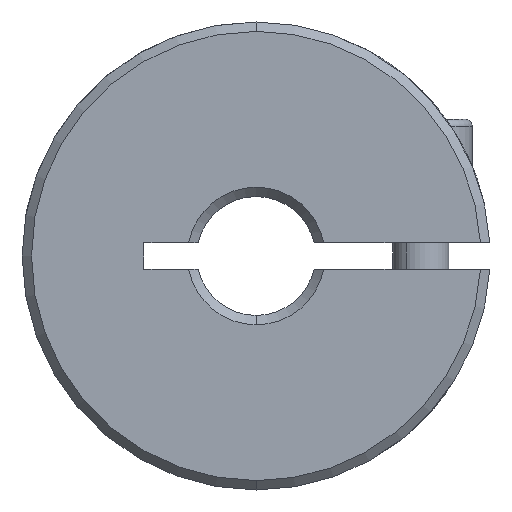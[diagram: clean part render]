
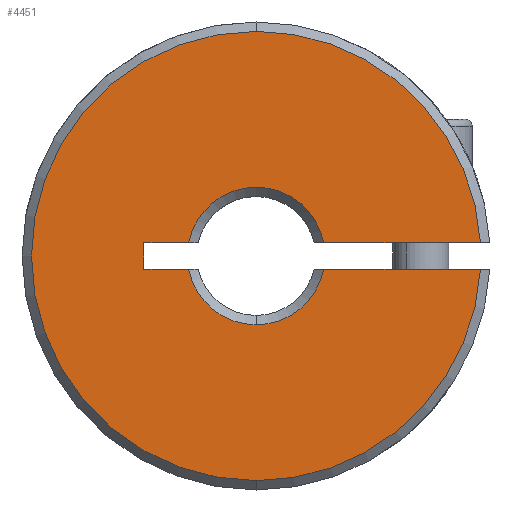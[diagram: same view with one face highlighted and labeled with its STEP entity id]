
A CAD part, front view. The second image highlights one B-rep face of the part: STEP entity #4451.
In plain terms, the highlighted planar face has unit normal (0, -1, 0).
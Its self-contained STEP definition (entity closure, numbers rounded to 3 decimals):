
#12 = DIRECTION ( 'NONE',  ( 0., 0., 1. ) ) ;
#161 = ORIENTED_EDGE ( 'NONE', *, *, #921, .F. ) ;
#206 = CARTESIAN_POINT ( 'NONE',  ( 3.608, 0.25, -0.7 ) ) ;
#248 = AXIS2_PLACEMENT_3D ( 'NONE', #3479, #5224, #3036 ) ;
#339 = CARTESIAN_POINT ( 'NONE',  ( -6., 0.25, 0.7 ) ) ;
#363 = ORIENTED_EDGE ( 'NONE', *, *, #3715, .T. ) ;
#388 = DIRECTION ( 'NONE',  ( 0., 0., 1. ) ) ;
#513 = DIRECTION ( 'NONE',  ( 0., 0., 1. ) ) ;
#519 = DIRECTION ( 'NONE',  ( 1., 0., 0. ) ) ;
#595 = VERTEX_POINT ( 'NONE', #4464 ) ;
#725 = EDGE_CURVE ( 'NONE', #775, #1726, #4059, .T. ) ;
#744 = DIRECTION ( 'NONE',  ( 0., 0., -1. ) ) ;
#775 = VERTEX_POINT ( 'NONE', #5285 ) ;
#844 = LINE ( 'NONE', #339, #2422 ) ;
#921 = EDGE_CURVE ( 'NONE', #4858, #1013, #2785, .T. ) ;
#924 = CARTESIAN_POINT ( 'NONE',  ( -6., 0.25, -0.7 ) ) ;
#962 = ORIENTED_EDGE ( 'NONE', *, *, #4263, .F. ) ;
#1013 = VERTEX_POINT ( 'NONE', #5004 ) ;
#1161 = CARTESIAN_POINT ( 'NONE',  ( -6., 0.25, -0.7 ) ) ;
#1257 = DIRECTION ( 'NONE',  ( 0., 1., 0. ) ) ;
#1276 = DIRECTION ( 'NONE',  ( 0., -1., 0. ) ) ;
#1339 = EDGE_CURVE ( 'NONE', #1544, #5460, #5461, .T. ) ;
#1441 = CIRCLE ( 'NONE', #2924, 12. ) ;
#1544 = VERTEX_POINT ( 'NONE', #206 ) ;
#1615 = ORIENTED_EDGE ( 'NONE', *, *, #1339, .T. ) ;
#1622 = ORIENTED_EDGE ( 'NONE', *, *, #3307, .F. ) ;
#1626 = LINE ( 'NONE', #4228, #1858 ) ;
#1651 = PLANE ( 'NONE',  #2782 ) ;
#1702 = CARTESIAN_POINT ( 'NONE',  ( 0., 0.25, 0. ) ) ;
#1726 = VERTEX_POINT ( 'NONE', #4774 ) ;
#1744 = EDGE_CURVE ( 'NONE', #5009, #4576, #2164, .T. ) ;
#1858 = VECTOR ( 'NONE', #744, 1000. ) ;
#2043 = AXIS2_PLACEMENT_3D ( 'NONE', #2213, #5185, #3436 ) ;
#2164 = CIRCLE ( 'NONE', #248, 12. ) ;
#2213 = CARTESIAN_POINT ( 'NONE',  ( 0., 0.25, 0. ) ) ;
#2422 = VECTOR ( 'NONE', #4305, 1000. ) ;
#2458 = CARTESIAN_POINT ( 'NONE',  ( -6., 0.25, 0.7 ) ) ;
#2464 = VECTOR ( 'NONE', #5534, 1000. ) ;
#2531 = AXIS2_PLACEMENT_3D ( 'NONE', #5282, #4421, #513 ) ;
#2600 = FACE_OUTER_BOUND ( 'NONE', #2647, .T. ) ;
#2647 = EDGE_LOOP ( 'NONE', ( #4660, #2709, #3482, #4224, #3855, #363, #1622, #1615, #5297, #161, #962 ) ) ;
#2695 = CARTESIAN_POINT ( 'NONE',  ( 11.98, 0.25, -0.7 ) ) ;
#2709 = ORIENTED_EDGE ( 'NONE', *, *, #725, .T. ) ;
#2782 = AXIS2_PLACEMENT_3D ( 'NONE', #3444, #4706, #12 ) ;
#2785 = LINE ( 'NONE', #4550, #3234 ) ;
#2924 = AXIS2_PLACEMENT_3D ( 'NONE', #2996, #4693, #5092 ) ;
#2996 = CARTESIAN_POINT ( 'NONE',  ( 0., 0.25, 0. ) ) ;
#3014 = CARTESIAN_POINT ( 'NONE',  ( 0., 0.25, -3.675 ) ) ;
#3036 = DIRECTION ( 'NONE',  ( 0., 0., 1. ) ) ;
#3234 = VECTOR ( 'NONE', #519, 1000. ) ;
#3307 = EDGE_CURVE ( 'NONE', #1544, #3428, #5101, .T. ) ;
#3322 = EDGE_CURVE ( 'NONE', #775, #4957, #5132, .T. ) ;
#3428 = VERTEX_POINT ( 'NONE', #2695 ) ;
#3436 = DIRECTION ( 'NONE',  ( 0., 0., 1. ) ) ;
#3444 = CARTESIAN_POINT ( 'NONE',  ( -50., 0.25, 17.349 ) ) ;
#3479 = CARTESIAN_POINT ( 'NONE',  ( 0., 0.25, 0. ) ) ;
#3482 = ORIENTED_EDGE ( 'NONE', *, *, #4788, .F. ) ;
#3715 = EDGE_CURVE ( 'NONE', #595, #3428, #1441, .T. ) ;
#3855 = ORIENTED_EDGE ( 'NONE', *, *, #4781, .T. ) ;
#3931 = VECTOR ( 'NONE', #4762, 1000. ) ;
#3952 = CARTESIAN_POINT ( 'NONE',  ( 11.98, 0.25, 0.7 ) ) ;
#4059 = CIRCLE ( 'NONE', #2043, 3.675 ) ;
#4173 = AXIS2_PLACEMENT_3D ( 'NONE', #5194, #1257, #4769 ) ;
#4224 = ORIENTED_EDGE ( 'NONE', *, *, #1744, .T. ) ;
#4228 = CARTESIAN_POINT ( 'NONE',  ( -6., 0.25, -0.7 ) ) ;
#4263 = EDGE_CURVE ( 'NONE', #4957, #4858, #1626, .T. ) ;
#4305 = DIRECTION ( 'NONE',  ( -1., 0., 0. ) ) ;
#4421 = DIRECTION ( 'NONE',  ( 0., 1., 0. ) ) ;
#4431 = CARTESIAN_POINT ( 'NONE',  ( -6., 0.25, 0.7 ) ) ;
#4440 = AXIS2_PLACEMENT_3D ( 'NONE', #1702, #1276, #388 ) ;
#4451 = ADVANCED_FACE ( 'NONE', ( #2600 ), #1651, .F. ) ;
#4464 = CARTESIAN_POINT ( 'NONE',  ( 0., 0.25, -12. ) ) ;
#4487 = EDGE_CURVE ( 'NONE', #5460, #1013, #5637, .T. ) ;
#4550 = CARTESIAN_POINT ( 'NONE',  ( -6., 0.25, -0.7 ) ) ;
#4576 = VERTEX_POINT ( 'NONE', #5348 ) ;
#4660 = ORIENTED_EDGE ( 'NONE', *, *, #3322, .F. ) ;
#4693 = DIRECTION ( 'NONE',  ( 0., -1., 0. ) ) ;
#4706 = DIRECTION ( 'NONE',  ( 0., 1., 0. ) ) ;
#4762 = DIRECTION ( 'NONE',  ( 1., 0., 0. ) ) ;
#4769 = DIRECTION ( 'NONE',  ( 0., 0., 1. ) ) ;
#4774 = CARTESIAN_POINT ( 'NONE',  ( 3.608, 0.25, 0.7 ) ) ;
#4781 = EDGE_CURVE ( 'NONE', #4576, #595, #4899, .T. ) ;
#4788 = EDGE_CURVE ( 'NONE', #5009, #1726, #844, .T. ) ;
#4858 = VERTEX_POINT ( 'NONE', #924 ) ;
#4899 = CIRCLE ( 'NONE', #4440, 12. ) ;
#4957 = VERTEX_POINT ( 'NONE', #4431 ) ;
#5004 = CARTESIAN_POINT ( 'NONE',  ( -3.608, 0.25, -0.7 ) ) ;
#5009 = VERTEX_POINT ( 'NONE', #3952 ) ;
#5092 = DIRECTION ( 'NONE',  ( 0., 0., 1. ) ) ;
#5101 = LINE ( 'NONE', #1161, #3931 ) ;
#5132 = LINE ( 'NONE', #2458, #2464 ) ;
#5185 = DIRECTION ( 'NONE',  ( 0., 1., 0. ) ) ;
#5194 = CARTESIAN_POINT ( 'NONE',  ( 0., 0.25, 0. ) ) ;
#5224 = DIRECTION ( 'NONE',  ( 0., -1., 0. ) ) ;
#5282 = CARTESIAN_POINT ( 'NONE',  ( 0., 0.25, 0. ) ) ;
#5285 = CARTESIAN_POINT ( 'NONE',  ( -3.608, 0.25, 0.7 ) ) ;
#5297 = ORIENTED_EDGE ( 'NONE', *, *, #4487, .T. ) ;
#5348 = CARTESIAN_POINT ( 'NONE',  ( 0., 0.25, 12. ) ) ;
#5460 = VERTEX_POINT ( 'NONE', #3014 ) ;
#5461 = CIRCLE ( 'NONE', #2531, 3.675 ) ;
#5534 = DIRECTION ( 'NONE',  ( -1., 0., 0. ) ) ;
#5637 = CIRCLE ( 'NONE', #4173, 3.675 ) ;
